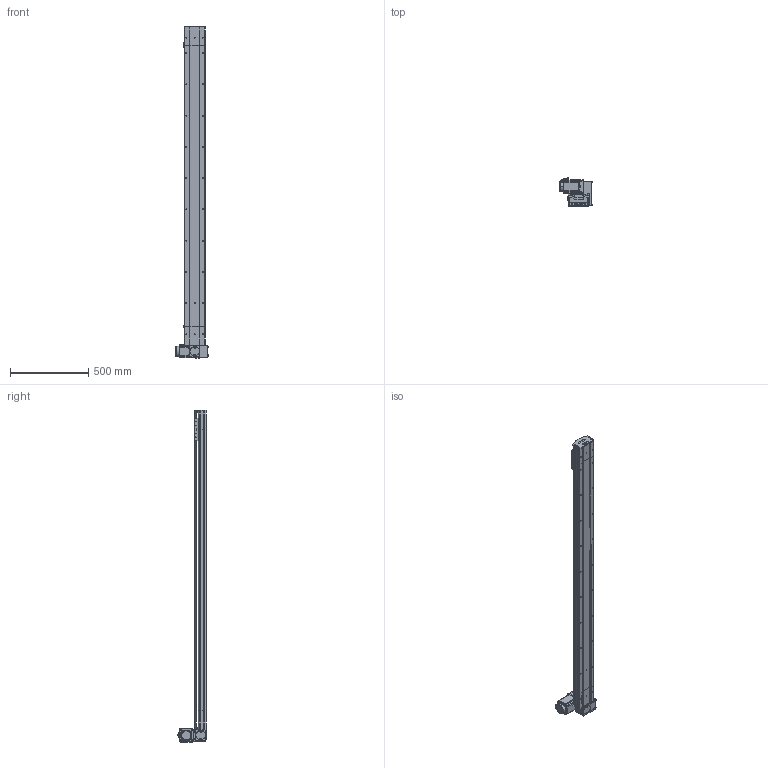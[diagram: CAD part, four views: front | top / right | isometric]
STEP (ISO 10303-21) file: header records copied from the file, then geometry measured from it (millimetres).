
FILE_DESCRIPTION (( 'STEP AP214' ), '1' );
FILE_NAME ('D14 TBH LT S1800.STEP', '2010-06-29T14:10:58', ( 'Conseil Régional Haute-Normandie' ), ( 'Conseil Régional Haute-Normandie' ), 'SwSTEP 2.0', 'SolidWorks 2010', '' );
FILE_SCHEMA (( 'AUTOMOTIVE_DESIGN' ));
Length unit declared in the file: millimetre
Products named in the file (39): tete d''axe haut D14; plaque de  bout tail D14_Default; Tail D14B_Default; corpl tail D14_Default; vis M5 L16_Default; Plaque racord D14_Default; Arbre+rail tail D14; couroie 2_Default; D14 TB H LT_Default; couvercle D14_Default; Arbre+rail head D14; avant 90BLDC100A-640; vis M5 L8 90°_Default; Conecteur_Default; plaque de  bout head D14 LT_Default; couvercle D14 head_Default; poulie tail_Default; Moteur motionking 90BLDC100A-640; poulie head_Default; Couroie_Default; corp head D14_Default; Conecteur2_Default; corps 90BLDC100A-640; codeur 90BLDC100-640; Chariot D14; chariot D14B_Default; Cache arbre_Default; Vis M5 L16-2_Default; vis M5 L12_Default; Cache_Default; guide D14; vis M5 L5_Default; renvoi LH_Default; Cvis M5 L70_Default; D14 TBH LT S1800; Rail + couroie D14 Course 1800 ; couvercle D14 course L1800_Default; D14 couroie L1800_Default; corpl 1800_Default
Assembly tree (68 placements, depth 4):
  D14 TBH LT S1800
    D14 couroie L1800_Default
      corpl 1800_Default
      Rail + couroie D14 Course 1800 
      couvercle D14 course L1800_Default
    D14 TB H LT_Default
      vis M5 L12_Default  x12
      corp head D14_Default
      Vis M5 L16-2_Default  x4
      Arbre+rail head D14
      Cache arbre_Default
      plaque de  bout head D14 LT_Default
      Cvis M5 L70_Default  x4
      renvoi LH_Default
      Moteur motionking 90BLDC100A-640
        Conecteur_Default
        Conecteur2_Default
        codeur 90BLDC100-640
        avant 90BLDC100A-640
        corps 90BLDC100A-640
      poulie head_Default
      couvercle D14 head_Default
      Cache_Default  x2
      vis M5 L5_Default  x2
      Plaque racord D14_Default
      couroie 2_Default
    chariot D14B_Default
      guide D14  x2
      vis M5 L12_Default  x4
      Chariot D14
    Tail D14B_Default
      Couroie_Default
      vis M5 L12_Default  x4
      vis M5 L8 90°_Default  x2
      couvercle D14_Default
      vis M5 L16_Default  x2
      tete d''axe haut D14
      plaque de  bout tail D14_Default
      corpl tail D14_Default
      poulie tail_Default
      Arbre+rail tail D14
Bounding box: 207.2 x 189.1 x 2125.75 mm (x, y, z)
Volume: 8518141 mm3; surface area: 2957404.1 mm2
Topology: 92 solids, 92 shells, 2677 faces, 6539 edges, 4218 vertices
Faces by surface type: plane 1601, cylinder 763, bspline 136, torus 89, cone 84, sphere 4
Entity records: 80576 total; most frequent: CARTESIAN_POINT 23773, ORIENTED_EDGE 9938, DIRECTION 9772, EDGE_CURVE 4969, VECTOR 3310, LINE 3310, VERTEX_POINT 3268, AXIS2_PLACEMENT_3D 3231
